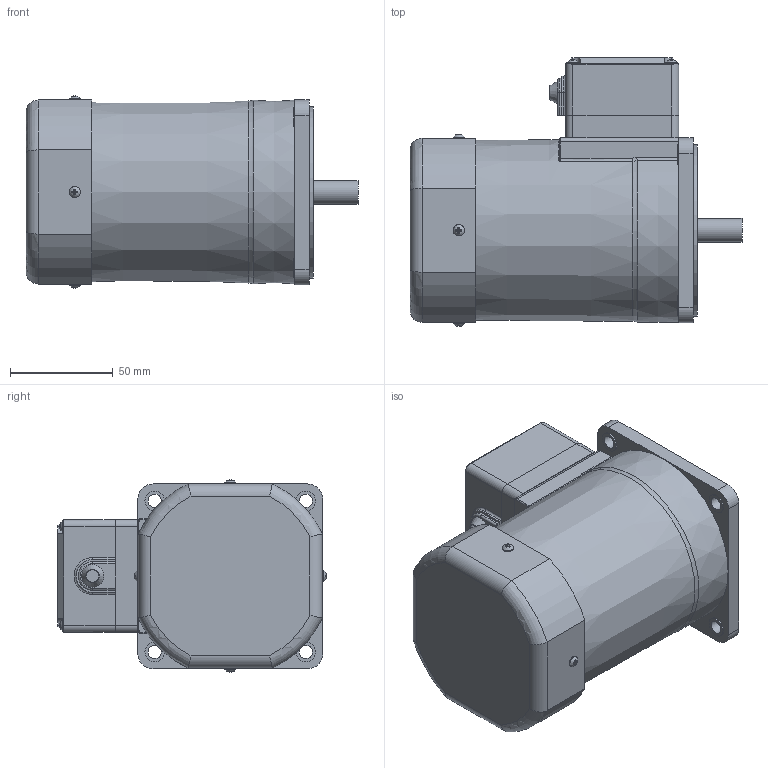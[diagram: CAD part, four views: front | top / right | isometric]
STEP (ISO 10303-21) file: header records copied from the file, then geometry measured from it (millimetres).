
FILE_DESCRIPTION((''),'2;1');
FILE_NAME('D:\김성묵\업무폴더\개발 파일\프로젝트 개발 AB등급\AC표준형 개발자료\90각 이하 표준형 개발\도면작성 자료\3D 도면\홈페이지용 3D 파일\150W MOTOR\S9I150G-T1.stp','2015-03-26T20:05:35',('smkim'),(''),'Autodesk Inventor 2012','Autodesk Inventor 2012','');
FILE_SCHEMA(('AUTOMOTIVE_DESIGN { 1 0 10303 214 1 1 1 1 }'));
Length unit declared in the file: millimetre
Products named in the file (9): S9I150G-T1; S9I90GㅁTCE; S9I150G; FAN COVER; 552300620; 80 각 T1 BOX_CORD BUSH; 25W T1 BOX CORD BUSH G; 80각 T1 BOX
Assembly tree (15 placements, depth 3):
  S9I150G-T1
    S9I90GㅁTCE
    S9I150G
    FAN COVER
      FAN COVER
      552300620  x4
    80 각 T1 BOX_CORD BUSH
      25W T1 BOX CORD BUSH G
      80각 T1 BOX
    552300620  x4
Bounding box: 161.6 x 130.75 x 93.49 mm (x, y, z)
Volume: 1096168 mm3; surface area: 112596.7 mm2
Topology: 14 solids, 14 shells, 377 faces, 899 edges, 575 vertices
Faces by surface type: plane 216, cylinder 90, bspline 28, torus 27, cone 16
Full cylindrical faces by diameter (mm): 3 x12, 3.5 x4, 5.6 x8, 6.5 x4, 8 x1, 9.5 x4, 11.5 x1, 40 x1, 83.5 x1, 86 x1
Entity records: 7471 total; most frequent: CARTESIAN_POINT 2006, DIRECTION 1091, ORIENTED_EDGE 1016, EDGE_CURVE 508, AXIS2_PLACEMENT_3D 418, VERTEX_POINT 348, EDGE_LOOP 296, VECTOR 255
